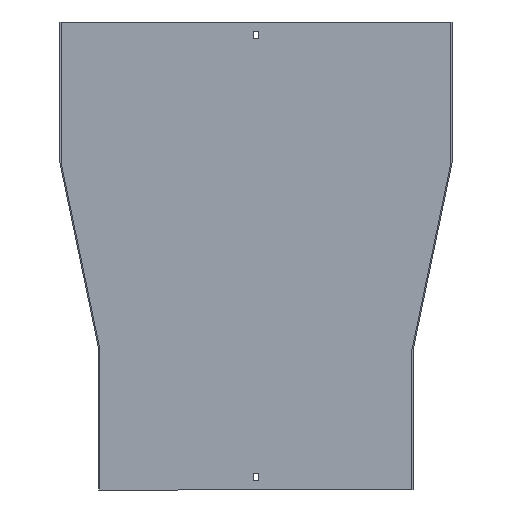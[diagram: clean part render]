
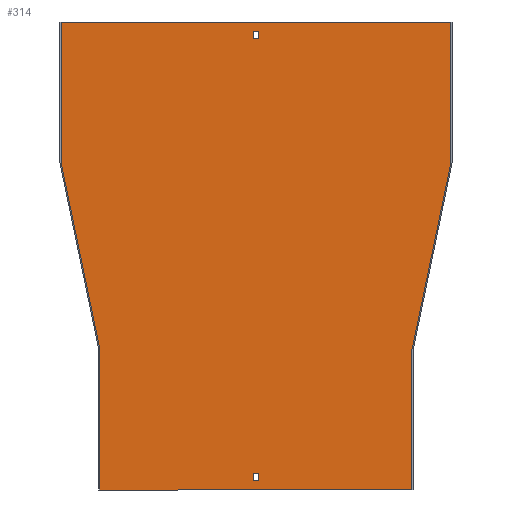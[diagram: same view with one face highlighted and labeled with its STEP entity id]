
A CAD part, front view. The second image highlights one B-rep face of the part: STEP entity #314.
In plain terms, the highlighted planar face has unit normal (0, -1, 0).
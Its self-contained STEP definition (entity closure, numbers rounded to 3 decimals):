
#12 = CARTESIAN_POINT ( 'NONE',  ( 250., -1.5, -180. ) ) ;
#15 = CARTESIAN_POINT ( 'NONE',  ( 3.25, -1.5, -21. ) ) ;
#17 = CARTESIAN_POINT ( 'NONE',  ( -3.25, -1.5, -12. ) ) ;
#25 = CARTESIAN_POINT ( 'NONE',  ( 3.25, -1.5, -12. ) ) ;
#26 = FACE_OUTER_BOUND ( 'NONE', #778, .T. ) ;
#28 = CARTESIAN_POINT ( 'NONE',  ( -200., -1.5, -419.845 ) ) ;
#31 = VECTOR ( 'NONE', #214, 1000. ) ;
#43 = VERTEX_POINT ( 'NONE', #304 ) ;
#48 = VERTEX_POINT ( 'NONE', #569 ) ;
#49 = VECTOR ( 'NONE', #231, 1000. ) ;
#51 = CARTESIAN_POINT ( 'NONE',  ( 251.5, -1.5, 0. ) ) ;
#59 = DIRECTION ( 'NONE',  ( 0., 0., -1. ) ) ;
#62 = VERTEX_POINT ( 'NONE', #186 ) ;
#70 = ORIENTED_EDGE ( 'NONE', *, *, #398, .F. ) ;
#74 = EDGE_LOOP ( 'NONE', ( #543, #272, #703, #521 ) ) ;
#75 = VERTEX_POINT ( 'NONE', #445 ) ;
#78 = VECTOR ( 'NONE', #354, 1000. ) ;
#88 = DIRECTION ( 'NONE',  ( 0., 0., -1. ) ) ;
#96 = CARTESIAN_POINT ( 'NONE',  ( 0., -1.5, 0. ) ) ;
#106 = LINE ( 'NONE', #831, #425 ) ;
#110 = CARTESIAN_POINT ( 'NONE',  ( -200., -1.5, -420. ) ) ;
#116 = ORIENTED_EDGE ( 'NONE', *, *, #819, .F. ) ;
#124 = CARTESIAN_POINT ( 'NONE',  ( 0., -1.5, -12. ) ) ;
#125 = VERTEX_POINT ( 'NONE', #15 ) ;
#132 = ORIENTED_EDGE ( 'NONE', *, *, #510, .F. ) ;
#158 = CARTESIAN_POINT ( 'NONE',  ( -3.25, -1.5, 0. ) ) ;
#161 = FACE_BOUND ( 'NONE', #587, .T. ) ;
#179 = ORIENTED_EDGE ( 'NONE', *, *, #855, .F. ) ;
#183 = VERTEX_POINT ( 'NONE', #17 ) ;
#186 = CARTESIAN_POINT ( 'NONE',  ( 3.25, -1.5, -588. ) ) ;
#190 = VERTEX_POINT ( 'NONE', #675 ) ;
#197 = ORIENTED_EDGE ( 'NONE', *, *, #494, .F. ) ;
#202 = ORIENTED_EDGE ( 'NONE', *, *, #420, .F. ) ;
#214 = DIRECTION ( 'NONE',  ( 0., 0., -1. ) ) ;
#220 = LINE ( 'NONE', #697, #841 ) ;
#228 = DIRECTION ( 'NONE',  ( -1., 0., 0. ) ) ;
#231 = DIRECTION ( 'NONE',  ( -0.204, 0., 0.979 ) ) ;
#239 = DIRECTION ( 'NONE',  ( 0., 0., 1. ) ) ;
#241 = ORIENTED_EDGE ( 'NONE', *, *, #666, .F. ) ;
#243 = VERTEX_POINT ( 'NONE', #689 ) ;
#246 = EDGE_CURVE ( 'NONE', #183, #526, #429, .T. ) ;
#256 = DIRECTION ( 'NONE',  ( 0., 0., -1. ) ) ;
#262 = DIRECTION ( 'NONE',  ( 1., 0., 0. ) ) ;
#272 = ORIENTED_EDGE ( 'NONE', *, *, #332, .T. ) ;
#284 = DIRECTION ( 'NONE',  ( 0., 0., -1. ) ) ;
#292 = DIRECTION ( 'NONE',  ( 0., 0., 1. ) ) ;
#293 = VECTOR ( 'NONE', #407, 1000. ) ;
#295 = ORIENTED_EDGE ( 'NONE', *, *, #597, .F. ) ;
#304 = CARTESIAN_POINT ( 'NONE',  ( -3.25, -1.5, -579. ) ) ;
#305 = CARTESIAN_POINT ( 'NONE',  ( -250.032, -1.5, -179.694 ) ) ;
#310 = LINE ( 'NONE', #662, #626 ) ;
#314 = ADVANCED_FACE ( 'NONE', ( #161, #26, #547 ), #551, .T. ) ;
#331 = LINE ( 'NONE', #393, #399 ) ;
#332 = EDGE_CURVE ( 'NONE', #48, #43, #418, .T. ) ;
#342 = CARTESIAN_POINT ( 'NONE',  ( -3.25, -1.5, -21. ) ) ;
#354 = DIRECTION ( 'NONE',  ( 1., 0., 0. ) ) ;
#368 = CARTESIAN_POINT ( 'NONE',  ( 200., -1.5, -419.845 ) ) ;
#373 = LINE ( 'NONE', #110, #603 ) ;
#381 = ORIENTED_EDGE ( 'NONE', *, *, #762, .F. ) ;
#393 = CARTESIAN_POINT ( 'NONE',  ( 3.25, -1.5, 0. ) ) ;
#398 = EDGE_CURVE ( 'NONE', #125, #639, #462, .T. ) ;
#399 = VECTOR ( 'NONE', #256, 1000. ) ;
#407 = DIRECTION ( 'NONE',  ( -1., 0., 0. ) ) ;
#412 = VECTOR ( 'NONE', #652, 1000. ) ;
#418 = LINE ( 'NONE', #623, #479 ) ;
#420 = EDGE_CURVE ( 'NONE', #639, #183, #438, .T. ) ;
#425 = VECTOR ( 'NONE', #228, 1000. ) ;
#429 = LINE ( 'NONE', #158, #657 ) ;
#438 = LINE ( 'NONE', #124, #412 ) ;
#445 = CARTESIAN_POINT ( 'NONE',  ( 250., -1.5, -179.845 ) ) ;
#447 = ORIENTED_EDGE ( 'NONE', *, *, #740, .F. ) ;
#462 = LINE ( 'NONE', #761, #822 ) ;
#473 = LINE ( 'NONE', #671, #572 ) ;
#479 = VECTOR ( 'NONE', #820, 1000. ) ;
#480 = VECTOR ( 'NONE', #262, 1000. ) ;
#494 = EDGE_CURVE ( 'NONE', #674, #190, #106, .T. ) ;
#496 = VERTEX_POINT ( 'NONE', #368 ) ;
#498 = LINE ( 'NONE', #305, #49 ) ;
#510 = EDGE_CURVE ( 'NONE', #707, #75, #808, .T. ) ;
#514 = DIRECTION ( 'NONE',  ( 1., 0., 0. ) ) ;
#517 = LINE ( 'NONE', #651, #480 ) ;
#521 = ORIENTED_EDGE ( 'NONE', *, *, #829, .T. ) ;
#524 = DIRECTION ( 'NONE',  ( 0., 0., 1. ) ) ;
#526 = VERTEX_POINT ( 'NONE', #342 ) ;
#528 = LINE ( 'NONE', #51, #800 ) ;
#543 = ORIENTED_EDGE ( 'NONE', *, *, #622, .T. ) ;
#547 = FACE_BOUND ( 'NONE', #74, .T. ) ;
#551 = PLANE ( 'NONE',  #766 ) ;
#569 = CARTESIAN_POINT ( 'NONE',  ( -3.25, -1.5, -588. ) ) ;
#572 = VECTOR ( 'NONE', #239, 1000. ) ;
#587 = EDGE_LOOP ( 'NONE', ( #648, #202, #70, #295 ) ) ;
#597 = EDGE_CURVE ( 'NONE', #526, #125, #745, .T. ) ;
#603 = VECTOR ( 'NONE', #292, 1000. ) ;
#612 = CARTESIAN_POINT ( 'NONE',  ( 3.25, -1.5, -579. ) ) ;
#616 = LINE ( 'NONE', #805, #293 ) ;
#621 = DIRECTION ( 'NONE',  ( -0.204, 0., -0.979 ) ) ;
#622 = EDGE_CURVE ( 'NONE', #62, #48, #616, .T. ) ;
#623 = CARTESIAN_POINT ( 'NONE',  ( -3.25, -1.5, 0. ) ) ;
#624 = VERTEX_POINT ( 'NONE', #679 ) ;
#626 = VECTOR ( 'NONE', #59, 1000. ) ;
#639 = VERTEX_POINT ( 'NONE', #25 ) ;
#648 = ORIENTED_EDGE ( 'NONE', *, *, #246, .F. ) ;
#651 = CARTESIAN_POINT ( 'NONE',  ( 0., -1.5, -579. ) ) ;
#652 = DIRECTION ( 'NONE',  ( -1., 0., 0. ) ) ;
#653 = VERTEX_POINT ( 'NONE', #612 ) ;
#657 = VECTOR ( 'NONE', #88, 1000. ) ;
#662 = CARTESIAN_POINT ( 'NONE',  ( 200., -1.5, -600. ) ) ;
#666 = EDGE_CURVE ( 'NONE', #243, #624, #473, .T. ) ;
#671 = CARTESIAN_POINT ( 'NONE',  ( -250., -1.5, 0. ) ) ;
#674 = VERTEX_POINT ( 'NONE', #691 ) ;
#675 = CARTESIAN_POINT ( 'NONE',  ( -200., -1.5, -600. ) ) ;
#679 = CARTESIAN_POINT ( 'NONE',  ( -250., -1.5, 0. ) ) ;
#689 = CARTESIAN_POINT ( 'NONE',  ( -250., -1.5, -179.845 ) ) ;
#690 = EDGE_CURVE ( 'NONE', #765, #243, #498, .T. ) ;
#691 = CARTESIAN_POINT ( 'NONE',  ( 200., -1.5, -600. ) ) ;
#697 = CARTESIAN_POINT ( 'NONE',  ( 200.032, -1.5, -419.694 ) ) ;
#703 = ORIENTED_EDGE ( 'NONE', *, *, #809, .T. ) ;
#707 = VERTEX_POINT ( 'NONE', #842 ) ;
#740 = EDGE_CURVE ( 'NONE', #75, #496, #220, .T. ) ;
#745 = LINE ( 'NONE', #818, #78 ) ;
#761 = CARTESIAN_POINT ( 'NONE',  ( 3.25, -1.5, 0. ) ) ;
#762 = EDGE_CURVE ( 'NONE', #190, #765, #373, .T. ) ;
#765 = VERTEX_POINT ( 'NONE', #28 ) ;
#766 = AXIS2_PLACEMENT_3D ( 'NONE', #96, #823, #284 ) ;
#778 = EDGE_LOOP ( 'NONE', ( #116, #241, #785, #381, #197, #179, #447, #132 ) ) ;
#785 = ORIENTED_EDGE ( 'NONE', *, *, #690, .F. ) ;
#800 = VECTOR ( 'NONE', #514, 1000. ) ;
#805 = CARTESIAN_POINT ( 'NONE',  ( 0., -1.5, -588. ) ) ;
#808 = LINE ( 'NONE', #12, #31 ) ;
#809 = EDGE_CURVE ( 'NONE', #43, #653, #517, .T. ) ;
#818 = CARTESIAN_POINT ( 'NONE',  ( 0., -1.5, -21. ) ) ;
#819 = EDGE_CURVE ( 'NONE', #624, #707, #528, .T. ) ;
#820 = DIRECTION ( 'NONE',  ( 0., 0., 1. ) ) ;
#822 = VECTOR ( 'NONE', #524, 1000. ) ;
#823 = DIRECTION ( 'NONE',  ( 0., -1., 0. ) ) ;
#829 = EDGE_CURVE ( 'NONE', #653, #62, #331, .T. ) ;
#831 = CARTESIAN_POINT ( 'NONE',  ( -201.5, -1.5, -600. ) ) ;
#841 = VECTOR ( 'NONE', #621, 1000. ) ;
#842 = CARTESIAN_POINT ( 'NONE',  ( 250., -1.5, 0. ) ) ;
#855 = EDGE_CURVE ( 'NONE', #496, #674, #310, .T. ) ;
